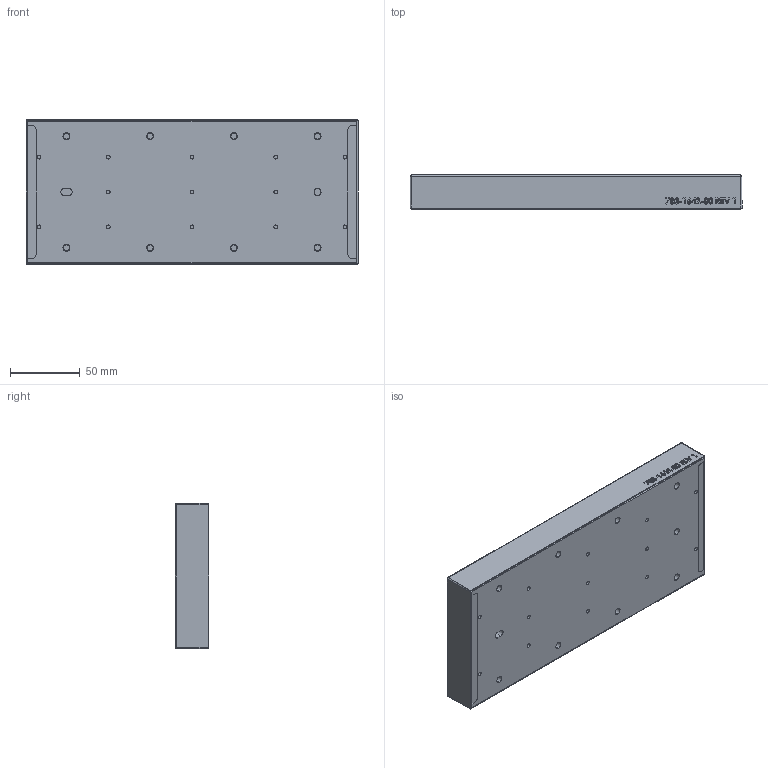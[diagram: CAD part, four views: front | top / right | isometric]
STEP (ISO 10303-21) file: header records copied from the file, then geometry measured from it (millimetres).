
FILE_DESCRIPTION (( 'STEP AP214' ), '1' );
FILE_NAME ('703-1642-00_R1.STEP', '2015-08-11T19:24:20', ( 'trosswaag' ), ( '' ), 'SwSTEP 2.0', 'SolidWorks 2015', '' );
FILE_SCHEMA (( 'AUTOMOTIVE_DESIGN' ));
Length unit declared in the file: millimetre
Products named in the file (9): 100-0097-XX_100-0097-26; 100-0097-XX_100-0097-25; 110-1614-XX_110-1614-48; 100-0097-XX_100-0097-00; 100-1614-XX_100-1614-08; 200-2194-00_200-2194-00; 700-1658-00_700-1617-00; 200-2289-00_200-2289-00; 703-1642-00_R1
Assembly tree (6 placements, depth 3):
  100-0097-XX_100-0097-26
  100-0097-XX_100-0097-25
  100-0097-XX_100-0097-00
  703-1642-00_R1
    700-1658-00_700-1617-00
      200-2289-00_200-2289-00
    200-2194-00_200-2194-00
    110-1614-XX_110-1614-48  x2
      100-1614-XX_100-1614-08
Bounding box: 238.02 x 24.3 x 104.02 mm (x, y, z)
Volume: 216300.2 mm3; surface area: 136593.5 mm2
Topology: 4 solids, 4 shells, 398 faces, 935 edges, 582 vertices
Faces by surface type: plane 207, cylinder 86, bspline 81, cone 20, torus 4
Entity records: 17022 total; most frequent: CARTESIAN_POINT 6776, ORIENTED_EDGE 1770, DIRECTION 1507, EDGE_CURVE 885, LINE 557, VECTOR 557, VERTEX_POINT 556, AXIS2_PLACEMENT_3D 475
